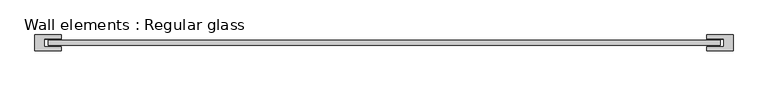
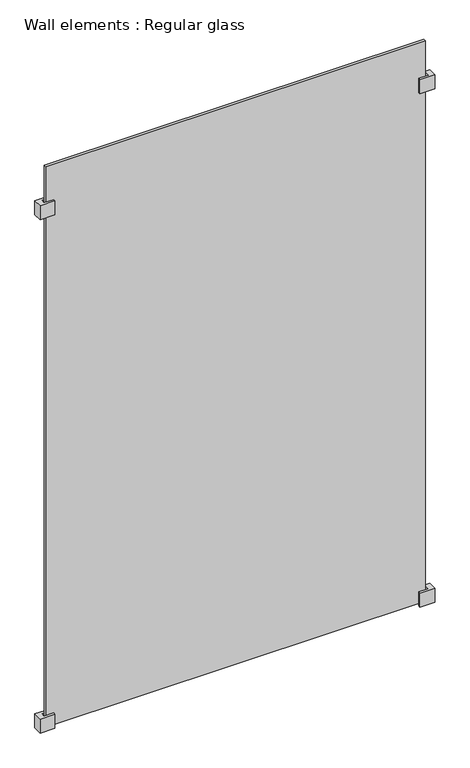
"""IFC4 building model written with IfcOpenShell, lengths in millimetres: proxy geometry, Wall elements : Regular glass."""

from ifc_helpers import new_model, si_unit, frame, origin, place, context, project, spatial, polyline, outline, extrude, source, transform, mapped, element, save


def wall_elements_regular_glass_d32f1256(model_context):
    return source(origin(), model_context, "Body", "SweptSolid", [
        extrude(outline(polyline([(1155.0, 13.5), (1200.0, 13.5), (1200.0, -13.5), (1155.0, -13.5), (1155.0, -6.5286408), (1184.0, -6.5286408), (1184.0, 6.5286408), (1155.0, 6.5286408), (1155.0, 13.5)])), frame((0.0, 0.0, 1793.0), z_axis=(0.0, 0.0, 1.0), x_axis=(1.0, 0.0, 0.0)), (0.0, 0.0, 1.0), 45.0),
        extrude(outline(polyline([(45.0, -13.5), (0.0, -13.5), (0.0, 13.5), (45.0, 13.5), (45.0, 6.5286408), (16.0, 6.5286408), (16.0, -6.5286408), (45.0, -6.5286408), (45.0, -13.5)])), frame((0.0, 0.0, 145.0), z_axis=(0.0, 0.0, 1.0), x_axis=(1.0, 0.0, 0.0)), (0.0, 0.0, 1.0), 45.0),
        extrude(outline(polyline([(1155.0, 13.5), (1200.0, 13.5), (1200.0, -13.5), (1155.0, -13.5), (1155.0, -6.5286408), (1184.0, -6.5286408), (1184.0, 6.5286408), (1155.0, 6.5286408), (1155.0, 13.5)])), frame((0.0, 0.0, 145.0), z_axis=(0.0, 0.0, 1.0), x_axis=(1.0, 0.0, 0.0)), (0.0, 0.0, 1.0), 45.0),
        extrude(outline(polyline([(45.0, -13.5), (0.0, -13.5), (0.0, 13.5), (45.0, 13.5), (45.0, 6.5286408), (16.0, 6.5286408), (16.0, -6.5286408), (45.0, -6.5286408), (45.0, -13.5)])), frame((0.0, 0.0, 1793.0), z_axis=(0.0, 0.0, 1.0), x_axis=(1.0, 0.0, 0.0)), (0.0, 0.0, 1.0), 45.0),
        extrude(outline(polyline([(1177.5, 4.0), (1177.5, -4.0), (22.5, -4.0), (22.5, 4.0), (1177.5, 4.0)])), frame((0.0, 0.0, 150.0), z_axis=(0.0, 0.0, 1.0), x_axis=(1.0, 0.0, 0.0)), (0.0, 0.0, 1.0), 1800.0),
    ])


if __name__ == "__main__":
    model = new_model("IFC4")
    model_context = context("Model", 3, world=origin())
    ifc_project = project(units=[si_unit("LENGTHUNIT", "METRE", prefix="MILLI")], contexts=[model_context])
    site = spatial("IfcSite", under=ifc_project)
    building = spatial("IfcBuilding", under=site)
    placement = place(None, origin())
    wall_elements_regular_glass_shape = wall_elements_regular_glass_d32f1256(model_context)
    element("IfcBuildingElementProxy", 1, Name="Wall elements : Regular glass", ObjectType="Wall elements : Regular glass", at=placement, inside=building, context=model_context, shape_type="MappedRepresentation", body=[
        mapped(wall_elements_regular_glass_shape, transform((0.0, 0.0, 0.0), x_axis=(1.0, 0.0, 0.0), y_axis=(0.0, 1.0, 0.0), z_axis=(0.0, 0.0, 1.0))),
    ])
    save(model, "model.ifc")
